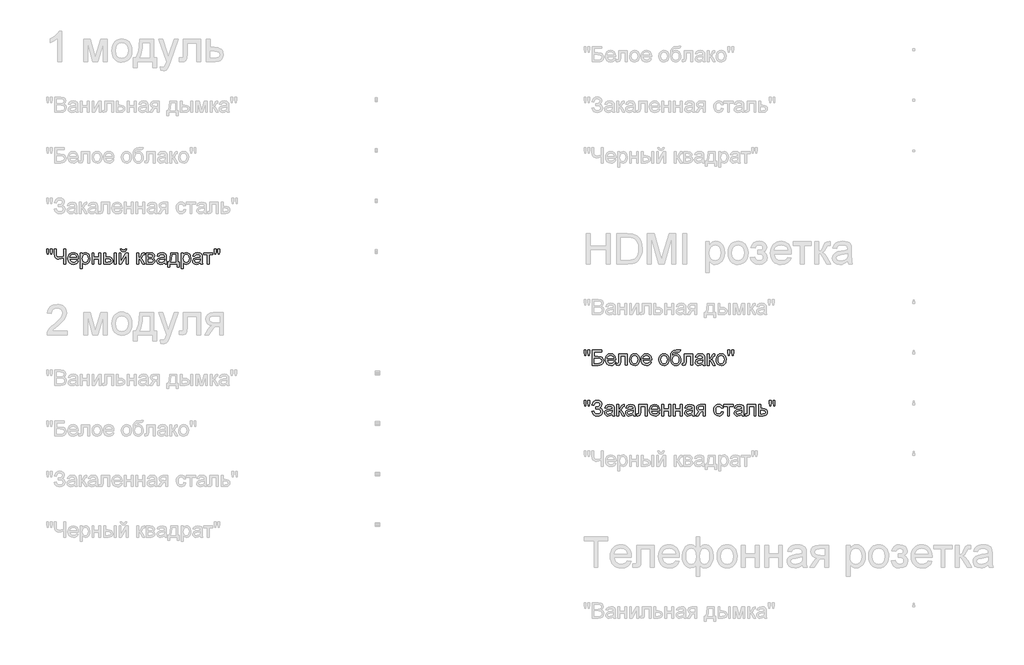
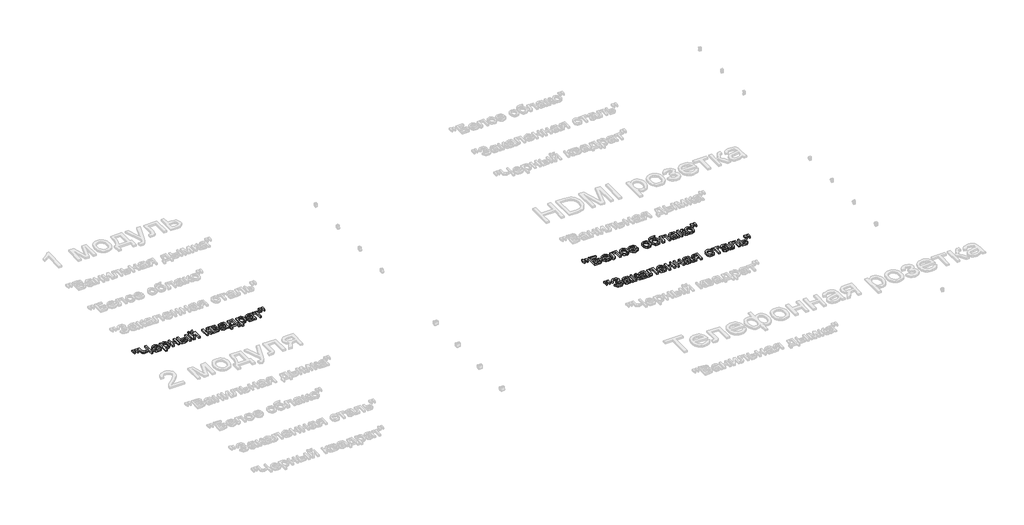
# One storey, part 54 of 168: 3 proxies.
"""IFC4 building model written with IfcOpenShell, lengths in millimetres."""

from ifc_helpers import new_model, si_unit, origin, origin_with_axes, place, context, project, spatial, polyline, outline, extrude, element, save

model = new_model("IFC4")

# Units and contexts
model_context = context("Model", 3, world=origin())
ifc_project = project(units=[si_unit("LENGTHUNIT", "METRE", prefix="MILLI")], contexts=[model_context])

# Site, building, storey
site = spatial("IfcSite", under=ifc_project)
building = spatial("IfcBuilding", under=site)
storey = spatial("IfcBuildingStorey", under=building, Name="Этаж 01", Elevation=0.0)

# Proxies
placement = place(None, origin())
element("IfcBuildingElementProxy", 1, Name="150", ObjectType="150", at=placement, inside=storey, context=model_context, shape_type="SweptSolid", body=[
    extrude(outline(polyline([(49080.1485789, -43470.3300622), (49075.550054, -43441.2305964), (49075.550054, -43416.1778325), (49094.3856121, -43416.1778325), (49094.3856121, -43441.2305964), (49090.2653338, -43470.3300622), (49080.1485789, -43470.3300622)])), origin_with_axes(), (0.0, 0.0, 1.0), 20.0),
    extrude(outline(polyline([(49117.7093306, -43470.3300622), (49113.2211703, -43441.2305964), (49113.2211703, -43416.1778325), (49132.0567284, -43416.1778325), (49132.0567284, -43441.2305964), (49127.6421445, -43470.3300622), (49117.7093306, -43470.3300622)])), origin_with_axes(), (0.0, 0.0, 1.0), 20.0),
    extrude(outline(polyline([(49263.9056355, -43566.8622977), (49245.0700773, -43566.8622977), (49245.0700773, -43506.5296505), (49220.0908899, -43514.6966308), (49198.4226404, -43517.4189576), (49183.7395502, -43515.556555), (49170.886673, -43509.9693472), (49160.926268, -43501.5172583), (49154.9205944, -43491.0602126), (49150.8922866, -43461.0594359), (49150.8922866, -43416.1778325), (49169.7278447, -43416.1778325), (49169.7278447, -43458.5210502), (49171.990319, -43478.8879171), (49178.7777418, -43490.8394834), (49188.7381468, -43496.6474204), (49200.5195677, -43498.5833994), (49222.2521966, -43496.2473488), (49245.0700773, -43489.2391968), (49245.0700773, -43416.1778325), (49263.9056355, -43416.1778325), (49263.9056355, -43566.8622977)])), origin_with_axes(), (0.0, 0.0, 1.0), 20.0),
    extrude(outline(polyline([(49371.9893657, -43533.900071), (49390.4570418, -43536.2545157), (49383.8029763, -43550.1696522), (49373.1849822, -43560.5715156), (49358.8421829, -43567.0554358), (49341.0137017, -43569.2167425), (49318.9131908, -43565.4873388), (49301.9078456, -43554.2991276), (49291.0645238, -43536.3786759), (49287.4500832, -43512.4525506), (49291.101312, -43487.7216835), (49302.0549984, -43469.2264162), (49318.8304174, -43457.6933157), (49339.9468439, -43453.8489488), (49360.4056814, -43457.6841186), (49376.7534375, -43469.189628), (49387.4725992, -43487.6481071), (49391.045653, -43512.342186), (49390.9352884, -43517.4189576), (49306.2856413, -43517.4189576), (49309.5459955, -43531.518035), (49317.1197661, -43541.8831103), (49328.0504599, -43548.2566658), (49341.3815837, -43550.3811843), (49359.8492598, -43546.444847), (49371.9893657, -43533.900071)]), holes=[polyline([(49306.2856413, -43498.5833994), (49372.2100949, -43498.5833994), (49369.6625121, -43488.6321915), (49364.668514, -43481.5136749), (49353.6872364, -43474.8917989), (49339.8732675, -43472.684507), (49327.1767401, -43474.445742), (49316.6783077, -43479.7294472), (49309.3804486, -43487.9654053), (49306.2856413, -43498.5833994)])]), origin_with_axes(), (0.0, 0.0, 1.0), 20.0),
    extrude(outline(polyline([(49409.8812112, -43609.2423036), (49409.8812112, -43456.2033936), (49428.7167693, -43456.2033936), (49428.7167693, -43474.6710697), (49441.739792, -43459.054479), (49459.3245513, -43453.8489488), (49472.0624654, -43455.6699647), (49483.2000928, -43461.1330123), (49492.268384, -43469.9069979), (49498.7982894, -43481.6608277), (49504.0590019, -43510.6867171), (49502.5736784, -43526.7953499), (49498.1177077, -43541.2025286), (49490.8336442, -43553.1770875), (49480.8640422, -43561.9878613), (49469.2527667, -43567.4095222), (49457.043683, -43569.2167425), (49440.6545401, -43564.3790943), (49428.7167693, -43552.1470179), (49428.7167693, -43609.2423036), (49409.8812112, -43609.2423036)]), holes=[polyline([(49428.7167693, -43512.4157624), (49430.7539159, -43529.301546), (49436.8653555, -43541.1105581), (49445.8830629, -43548.0635278), (49456.6390128, -43550.3811843), (49467.5697066, -43547.9807543), (49476.8173402, -43540.7794643), (49483.1219179, -43528.5381909), (49485.2234438, -43511.0178109), (49483.1725017, -43494.2239978), (49477.0196753, -43482.2494388), (49468.0157635, -43475.0757399), (49457.411565, -43472.684507), (49446.7659797, -43475.2274913), (49437.4171785, -43482.8564441), (49430.8918716, -43495.3322423), (49428.7167693, -43512.4157624)])]), origin_with_axes(), (0.0, 0.0, 1.0), 20.0),
    extrude(outline(polyline([(49525.2490049, -43456.2033936), (49544.084563, -43456.2033936), (49544.084563, -43498.5833994), (49593.5279032, -43498.5833994), (49593.5279032, -43456.2033936), (49612.3634613, -43456.2033936), (49612.3634613, -43566.8622977), (49593.5279032, -43566.8622977), (49593.5279032, -43517.4189576), (49544.084563, -43517.4189576), (49544.084563, -43566.8622977), (49525.2490049, -43566.8622977), (49525.2490049, -43456.2033936)])), origin_with_axes(), (0.0, 0.0, 1.0), 20.0),
    extrude(outline(polyline([(49744.2123684, -43456.2033936), (49763.0479266, -43456.2033936), (49763.0479266, -43566.8622977), (49744.2123684, -43566.8622977), (49744.2123684, -43456.2033936)])), origin_with_axes(), (0.0, 0.0, 1.0), 20.0),
    extrude(outline(polyline([(49640.6167986, -43456.2033936), (49659.4523567, -43456.2033936), (49659.4523567, -43496.2289547), (49682.739287, -43496.2289547), (49702.8670307, -43498.587998), (49717.780047, -43505.6651278), (49727.0092866, -43516.8901272), (49730.0856998, -43531.692779), (49727.5059273, -43545.1710556), (49719.7666098, -43556.5432078), (49706.3619096, -43564.2825252), (49686.785989, -43566.8622977), (49640.6167986, -43566.8622977), (49640.6167986, -43456.2033936)]), holes=[polyline([(49659.4523567, -43548.0267396), (49678.8029497, -43548.0267396), (49703.7821371, -43544.0720081), (49709.3831405, -43539.0090322), (49711.2501416, -43531.7295672), (49705.7135176, -43520.1412843), (49696.8337659, -43516.3337057), (49681.267759, -43515.0645128), (49659.4523567, -43515.0645128), (49659.4523567, -43548.0267396)])]), origin_with_axes(), (0.0, 0.0, 1.0), 20.0),
    extrude(outline(polyline([(49791.3012638, -43456.2033936), (49810.1368219, -43456.2033936), (49810.1368219, -43540.5955233), (49856.4163769, -43456.2033936), (49880.770165, -43456.2033936), (49880.770165, -43566.8622977), (49861.9346069, -43566.8622977), (49861.9346069, -43482.9852028), (49815.9493575, -43566.8622977), (49791.3012638, -43566.8622977), (49791.3012638, -43456.2033936)])), origin_with_axes(), (0.0, 0.0, 1.0), 20.0),
    extrude(outline(polyline([(49852.5168278, -43416.1778325), (49866.6434964, -43416.1778325), (49863.6038714, -43428.2397634), (49857.5016288, -43437.1287121), (49848.6126801, -43442.6055553), (49837.2129368, -43444.4311697), (49824.8429047, -43442.6193509), (49815.2503817, -43437.1838944), (49808.6928851, -43428.3087413), (49805.4279324, -43416.1778325), (49819.554601, -43416.1778325), (49824.8521017, -43426.7912281), (49835.5206796, -43430.3045011), (49847.219327, -43426.9015927), (49852.5168278, -43416.1778325)])), origin_with_axes(), (0.0, 0.0, 1.0), 20.0),
    extrude(outline(polyline([(49967.8846215, -43456.2033936), (49986.7201796, -43456.2033936), (49986.7201796, -43503.292289), (49999.3385321, -43499.9077746), (50009.6760161, -43480.1892997), (50018.2660607, -43463.1747574), (50025.8444298, -43457.6381334), (50039.6216105, -43456.2033936), (50043.2268541, -43456.2033936), (50043.2268541, -43475.1493163), (50038.1500825, -43475.0389517), (50028.9530327, -43477.0255145), (50022.4783096, -43489.4231377), (50014.8815464, -43502.8324365), (50004.2313626, -43509.3991301), (50016.113951, -43516.7291788), (50027.7758103, -43532.1710256), (50047.9357436, -43566.8622977), (50026.5250115, -43566.8622977), (50006.7697484, -43532.9067896), (49996.8369345, -43518.5409977), (49986.7201796, -43515.0645128), (49986.7201796, -43566.8622977), (49967.8846215, -43566.8622977), (49967.8846215, -43456.2033936)])), origin_with_axes(), (0.0, 0.0, 1.0), 20.0),
    extrude(outline(polyline([(50059.7079675, -43456.2033936), (50101.2050565, -43456.2033936), (50123.9585579, -43458.7233853), (50136.7608514, -43467.9572233), (50142.1135344, -43484.0520606), (50138.8761728, -43497.1302655), (50129.1273, -43506.4560741), (50141.7824406, -43516.6647995), (50146.8224239, -43534.4151058), (50143.6310476, -43548.7717006), (50136.0434815, -43558.8792584), (50124.0321343, -43564.8665379), (50107.569415, -43566.8622977), (50059.7079675, -43566.8622977), (50059.7079675, -43456.2033936)]), holes=[polyline([(50078.5435256, -43498.5833994), (50097.1583546, -43498.5833994), (50112.5174279, -43497.6269062), (50119.9854324, -43493.8009335), (50123.2779762, -43486.884752), (50121.8340394, -43481.2653545), (50117.5022289, -43477.6509139), (50097.7469658, -43475.0389517), (50078.5435256, -43475.0389517), (50078.5435256, -43498.5833994)]), polyline([(50078.5435256, -43548.0267396), (50101.6465149, -43548.0267396), (50122.137542, -43544.6238311), (50126.377382, -43539.9839195), (50127.9868658, -43532.8700014), (50124.7678983, -43523.8017102), (50116.3801888, -43518.5226036), (50099.8071049, -43517.4189576), (50078.5435256, -43517.4189576), (50078.5435256, -43548.0267396)])]), origin_with_axes(), (0.0, 0.0, 1.0), 20.0),
    extrude(outline(polyline([(50241.0002147, -43552.7356291), (50222.7348736, -43565.5011344), (50202.5565462, -43569.2167425), (50186.8157953, -43566.9818594), (50175.2045198, -43560.27721), (50168.0446165, -43550.0960758), (50165.6579821, -43537.4317381), (50169.2632256, -43522.5325173), (50178.736187, -43511.7167867), (50191.9247565, -43505.5363691), (50208.2219289, -43502.7036778), (50240.8898501, -43496.2289547), (50241.0002147, -43492.0350999), (50239.7034307, -43483.6289963), (50235.8130786, -43478.1291605), (50227.1126694, -43474.0456704), (50214.9909576, -43472.684507), (50195.9346703, -43476.3081446), (50186.847985, -43489.1656204), (50168.0124268, -43486.8111756), (50176.161013, -43468.4170758), (50192.56855, -43457.6381334), (50217.4189788, -43453.8489488), (50240.2460566, -43457.196675), (50253.1403205, -43465.6027786), (50258.9160679, -43478.3866779), (50259.8357728, -43494.8677913), (50259.8357728, -43518.3018744), (50260.792266, -43551.0249778), (50264.5446624, -43566.8622977), (50245.7091042, -43566.8622977), (50241.0002147, -43552.7356291)]), holes=[polyline([(50241.0002147, -43515.0645128), (50210.6131619, -43520.8402601), (50194.40796, -43523.8936807), (50187.0687142, -43528.8600876), (50184.4935402, -43536.1073629), (50190.1037407, -43546.2976942), (50206.5664599, -43550.3811843), (50225.6227473, -43545.8746299), (50237.9100059, -43534.9669288), (50240.8898501, -43520.3988017), (50241.0002147, -43515.0645128)])]), origin_with_axes(), (0.0, 0.0, 1.0), 20.0),
    extrude(outline(polyline([(50302.2157787, -43456.2033936), (50372.8491218, -43456.2033936), (50372.8491218, -43548.0267396), (50386.9757904, -43548.0267396), (50386.9757904, -43597.4700797), (50368.1402322, -43597.4700797), (50368.1402322, -43566.8622977), (50290.4435548, -43566.8622977), (50290.4435548, -43597.4700797), (50271.6079967, -43597.4700797), (50271.6079967, -43548.0267396), (50283.3802205, -43548.0267396), (50291.9380754, -43532.5619002), (50297.9299534, -43512.1030628), (50302.2157787, -43456.2033936)]), holes=[polyline([(50318.6968921, -43475.0389517), (50314.2823081, -43517.9523865), (50304.5702235, -43548.0267396), (50354.0135636, -43548.0267396), (50354.0135636, -43475.0389517), (50318.6968921, -43475.0389517)])]), origin_with_axes(), (0.0, 0.0, 1.0), 20.0),
    extrude(outline(polyline([(50408.1657933, -43609.2423036), (50408.1657933, -43456.2033936), (50427.0013514, -43456.2033936), (50427.0013514, -43474.6710697), (50440.0243741, -43459.054479), (50457.6091334, -43453.8489488), (50470.3470475, -43455.6699647), (50481.4846749, -43461.1330123), (50490.5529661, -43469.9069979), (50497.0828715, -43481.6608277), (50502.3435841, -43510.6867171), (50500.8582605, -43526.7953499), (50496.4022898, -43541.2025286), (50489.1182263, -43553.1770875), (50479.1486243, -43561.9878613), (50467.5373488, -43567.4095222), (50455.3282651, -43569.2167425), (50438.9391222, -43564.3790943), (50427.0013514, -43552.1470179), (50427.0013514, -43609.2423036), (50408.1657933, -43609.2423036)]), holes=[polyline([(50427.0013514, -43512.4157624), (50429.038498, -43529.301546), (50435.1499376, -43541.1105581), (50444.167645, -43548.0635278), (50454.9235949, -43550.3811843), (50465.8542887, -43547.9807543), (50475.1019223, -43540.7794643), (50481.4065, -43528.5381909), (50483.5080259, -43511.0178109), (50481.4570838, -43494.2239978), (50475.3042574, -43482.2494388), (50466.3003456, -43475.0757399), (50455.6961471, -43472.684507), (50445.0505618, -43475.2274913), (50435.7017606, -43482.8564441), (50429.1764537, -43495.3322423), (50427.0013514, -43512.4157624)])]), origin_with_axes(), (0.0, 0.0, 1.0), 20.0),
    extrude(outline(polyline([(50594.1669301, -43552.7356291), (50575.901589, -43565.5011344), (50555.7232616, -43569.2167425), (50539.9825107, -43566.9818594), (50528.3712352, -43560.27721), (50521.2113319, -43550.0960758), (50518.8246974, -43537.4317381), (50522.429941, -43522.5325173), (50531.9029024, -43511.7167867), (50545.0914719, -43505.5363691), (50561.3886443, -43502.7036778), (50594.0565655, -43496.2289547), (50594.1669301, -43492.0350999), (50592.870146, -43483.6289963), (50588.9797939, -43478.1291605), (50580.2793847, -43474.0456704), (50568.157673, -43472.684507), (50549.1013856, -43476.3081446), (50540.0147004, -43489.1656204), (50521.1791422, -43486.8111756), (50529.3277284, -43468.4170758), (50545.7352654, -43457.6381334), (50570.5856942, -43453.8489488), (50593.412772, -43457.196675), (50606.3070359, -43465.6027786), (50612.0827832, -43478.3866779), (50613.0024882, -43494.8677913), (50613.0024882, -43518.3018744), (50613.9589814, -43551.0249778), (50617.7113777, -43566.8622977), (50598.8758196, -43566.8622977), (50594.1669301, -43552.7356291)]), holes=[polyline([(50594.1669301, -43515.0645128), (50563.7798773, -43520.8402601), (50547.5746754, -43523.8936807), (50540.2354296, -43528.8600876), (50537.6602556, -43536.1073629), (50543.270456, -43546.2976942), (50559.7331753, -43550.3811843), (50578.7894627, -43545.8746299), (50591.0767213, -43534.9669288), (50594.0565655, -43520.3988017), (50594.1669301, -43515.0645128)])]), origin_with_axes(), (0.0, 0.0, 1.0), 20.0),
    extrude(outline(polyline([(50629.4836016, -43456.2033936), (50718.9525028, -43456.2033936), (50718.9525028, -43475.0389517), (50683.6358313, -43475.0389517), (50683.6358313, -43566.8622977), (50664.8002731, -43566.8622977), (50664.8002731, -43475.0389517), (50629.4836016, -43475.0389517), (50629.4836016, -43456.2033936)])), origin_with_axes(), (0.0, 0.0, 1.0), 20.0),
    extrude(outline(polyline([(50735.3232516, -43470.3300622), (50730.7247267, -43441.2305964), (50730.7247267, -43416.1778325), (50749.5602848, -43416.1778325), (50749.5602848, -43441.2305964), (50745.4400065, -43470.3300622), (50735.3232516, -43470.3300622)])), origin_with_axes(), (0.0, 0.0, 1.0), 20.0),
    extrude(outline(polyline([(50772.8840033, -43470.3300622), (50768.395843, -43441.2305964), (50768.395843, -43416.1778325), (50787.2314011, -43416.1778325), (50787.2314011, -43441.2305964), (50782.8168172, -43470.3300622), (50772.8840033, -43470.3300622)])), origin_with_axes(), (0.0, 0.0, 1.0), 20.0),
])
element("IfcBuildingElementProxy", 2, Name="150", ObjectType="150", at=placement, inside=storey, context=model_context, shape_type="SweptSolid", body=[
    extrude(outline(polyline([(54389.7772739, -44470.3300622), (54385.178749, -44441.2305964), (54385.178749, -44416.1778325), (54404.0143071, -44416.1778325), (54404.0143071, -44441.2305964), (54399.8940288, -44470.3300622), (54389.7772739, -44470.3300622)])), origin_with_axes(), (0.0, 0.0, 1.0), 20.0),
    extrude(outline(polyline([(54427.3380256, -44470.3300622), (54422.8498653, -44441.2305964), (54422.8498653, -44416.1778325), (54441.6854234, -44416.1778325), (54441.6854234, -44441.2305964), (54437.2708395, -44470.3300622), (54427.3380256, -44470.3300622)])), origin_with_axes(), (0.0, 0.0, 1.0), 20.0),
    extrude(outline(polyline([(54467.5843159, -44416.1778325), (54561.7621067, -44416.1778325), (54561.7621067, -44435.0133907), (54486.4198741, -44435.0133907), (54486.4198741, -44479.7478413), (54521.6997574, -44479.7478413), (54552.785786, -44483.573814), (54563.1876494, -44489.101241), (54571.2902503, -44498.0315764), (54576.5049776, -44509.5278888), (54578.2432201, -44522.7532465), (54573.2952072, -44544.2191609), (54558.5247451, -44560.5347274), (54545.2534021, -44565.2804052), (54525.0842718, -44566.8622977), (54467.5843159, -44566.8622977), (54467.5843159, -44416.1778325)]), holes=[polyline([(54486.4198741, -44548.0267396), (54526.7765289, -44548.0267396), (54541.0411533, -44546.4724382), (54551.2406816, -44541.8095339), (54557.3659168, -44534.0380267), (54559.4076619, -44523.1579167), (54554.7355606, -44508.4058487), (54541.730932, -44500.533174), (54513.3488361, -44498.5833994), (54486.4198741, -44498.5833994), (54486.4198741, -44548.0267396)])]), origin_with_axes(), (0.0, 0.0, 1.0), 20.0),
    extrude(outline(polyline([(54679.2636159, -44533.900071), (54697.7312921, -44536.2545157), (54691.0772265, -44550.1696522), (54680.4592324, -44560.5715156), (54666.1164331, -44567.0554358), (54648.2879519, -44569.2167425), (54626.1874411, -44565.4873388), (54609.1820959, -44554.2991276), (54598.338774, -44536.3786759), (54594.7243334, -44512.4525506), (54598.3755622, -44487.7216835), (54609.3292486, -44469.2264162), (54626.1046676, -44457.6933157), (54647.2210942, -44453.8489488), (54667.6799316, -44457.6841186), (54684.0276878, -44469.189628), (54694.7468494, -44487.6481071), (54698.3199033, -44512.342186), (54698.2095387, -44517.4189576), (54613.5598916, -44517.4189576), (54616.8202458, -44531.518035), (54624.3940164, -44541.8831103), (54635.3247101, -44548.2566658), (54648.6558339, -44550.3811843), (54667.1235101, -44546.444847), (54679.2636159, -44533.900071)]), holes=[polyline([(54613.5598916, -44498.5833994), (54679.4843451, -44498.5833994), (54676.9367623, -44488.6321915), (54671.9427642, -44481.5136749), (54660.9614867, -44474.8917989), (54647.1475178, -44472.684507), (54634.4509904, -44474.445742), (54623.952558, -44479.7294472), (54616.6546989, -44487.9654053), (54613.5598916, -44498.5833994)])]), origin_with_axes(), (0.0, 0.0, 1.0), 20.0),
    extrude(outline(polyline([(54726.5732405, -44456.2033936), (54811.3332522, -44456.2033936), (54811.3332522, -44566.7519331), (54792.497694, -44566.7519331), (54792.497694, -44475.0389517), (54745.4087987, -44475.0389517), (54745.4087987, -44527.830018), (54744.1396058, -44552.1838061), (54737.168242, -44562.4661079), (54720.6871286, -44566.8622977), (54705.3832376, -44565.9058045), (54705.3832376, -44548.0267396), (54713.8077353, -44548.0267396), (54722.3242035, -44546.8679113), (54725.7271119, -44543.1890913), (54726.5732405, -44526.7631603), (54726.5732405, -44456.2033936)])), origin_with_axes(), (0.0, 0.0, 1.0), 20.0),
    extrude(outline(polyline([(54834.8776999, -44511.5328457), (54838.951993, -44484.852204), (54851.1748723, -44466.0994193), (54866.2764282, -44456.9115664), (54884.3578282, -44453.8489488), (54904.1452811, -44457.5783525), (54919.9504113, -44468.7665637), (54930.310888, -44486.5306656), (54933.7643802, -44509.9877413), (54932.2376699, -44529.0164375), (54927.6575391, -44543.501791), (54920.1573449, -44554.3497114), (54909.8704446, -44562.4661079), (54897.6521638, -44567.5290839), (54884.3578282, -44569.2167425), (54864.3312521, -44565.5011344), (54848.544516, -44554.3543099), (54838.2944039, -44536.2177275), (54834.8776999, -44511.5328457)]), holes=[polyline([(54853.713258, -44511.4960575), (54855.8929589, -44528.5427894), (54862.4320613, -44540.6874938), (54872.2729047, -44547.9577617), (54884.3578282, -44550.3811843), (54896.3875695, -44547.9439661), (54906.2100188, -44540.6323115), (54912.7491212, -44528.3266587), (54914.928822, -44510.9074463), (54912.7353256, -44494.357355), (54906.1548365, -44482.3781975), (54896.3185916, -44475.1079296), (54884.3578282, -44472.684507), (54872.2729047, -44475.0987326), (54862.4320613, -44482.3414093), (54855.8929589, -44494.4585226), (54853.713258, -44511.4960575)])]), origin_with_axes(), (0.0, 0.0, 1.0), 20.0),
    extrude(outline(polyline([(55032.4303313, -44533.900071), (55050.8980075, -44536.2545157), (55044.2439419, -44550.1696522), (55033.6259478, -44560.5715156), (55019.2831485, -44567.0554358), (55001.4546673, -44569.2167425), (54979.3541564, -44565.4873388), (54962.3488112, -44554.2991276), (54951.5054894, -44536.3786759), (54947.8910488, -44512.4525506), (54951.5422776, -44487.7216835), (54962.495964, -44469.2264162), (54979.271383, -44457.6933157), (55000.3878095, -44453.8489488), (55020.846647, -44457.6841186), (55037.1944031, -44469.189628), (55047.9135648, -44487.6481071), (55051.4866187, -44512.342186), (55051.3762541, -44517.4189576), (54966.726607, -44517.4189576), (54969.9869611, -44531.518035), (54977.5607317, -44541.8831103), (54988.4914255, -44548.2566658), (55001.8225493, -44550.3811843), (55020.2902255, -44546.444847), (55032.4303313, -44533.900071)]), holes=[polyline([(54966.726607, -44498.5833994), (55032.6510605, -44498.5833994), (55030.1034777, -44488.6321915), (55025.1094796, -44481.5136749), (55014.128202, -44474.8917989), (55000.3142331, -44472.684507), (54987.6177058, -44474.445742), (54977.1192733, -44479.7294472), (54969.8214142, -44487.9654053), (54966.726607, -44498.5833994)])]), origin_with_axes(), (0.0, 0.0, 1.0), 20.0),
    extrude(outline(polyline([(55124.4744065, -44511.5328457), (55128.5486996, -44484.852204), (55140.7715789, -44466.0994193), (55155.8731348, -44456.9115664), (55173.9545348, -44453.8489488), (55193.7419877, -44457.5783525), (55209.5471179, -44468.7665637), (55219.9075946, -44486.5306656), (55223.3610868, -44509.9877413), (55221.8343765, -44529.0164375), (55217.2542457, -44543.501791), (55209.7540515, -44554.3497114), (55199.4671512, -44562.4661079), (55187.2488704, -44567.5290839), (55173.9545348, -44569.2167425), (55153.9279587, -44565.5011344), (55138.1412226, -44554.3543099), (55127.8911105, -44536.2177275), (55124.4744065, -44511.5328457)]), holes=[polyline([(55143.3099646, -44511.4960575), (55145.4896655, -44528.5427894), (55152.0287679, -44540.6874938), (55161.8696113, -44547.9577617), (55173.9545348, -44550.3811843), (55185.9842761, -44547.9439661), (55195.8067254, -44540.6323115), (55202.3458278, -44528.3266587), (55204.5255286, -44510.9074463), (55202.3320323, -44494.357355), (55195.7515431, -44482.3781975), (55185.9152982, -44475.1079296), (55173.9545348, -44472.684507), (55161.8696113, -44475.0987326), (55152.0287679, -44482.3414093), (55145.4896655, -44494.4585226), (55143.3099646, -44511.4960575)])]), origin_with_axes(), (0.0, 0.0, 1.0), 20.0),
    extrude(outline(polyline([(55322.2477671, -44413.8233877), (55338.7288805, -44413.8233877), (55333.8728382, -44428.5202734), (55324.2711181, -44433.8361683), (55301.204917, -44435.0133907), (55270.1372825, -44439.3543982), (55263.0095688, -44445.0013868), (55258.2179058, -44453.2603376), (55254.189598, -44477.8716431), (55270.5051645, -44459.8454253), (55280.4241828, -44455.3480679), (55291.5296205, -44453.8489488), (55311.1285338, -44457.661126), (55327.030233, -44469.0976575), (55337.5700522, -44487.0365033), (55341.0833253, -44510.3556233), (55339.3404843, -44528.3358558), (55334.1119614, -44542.766027), (55317.5756658, -44562.3189551), (55306.2816885, -44567.4922957), (55291.5296205, -44569.2167425), (55274.5288738, -44566.995655), (55261.7863612, -44560.3323923), (55252.4099688, -44550.2064404), (55245.5075829, -44537.597285), (55241.2585459, -44518.6099755), (55239.8422002, -44489.3495614), (55243.4152541, -44453.2097538), (55254.1344157, -44431.1690238), (55272.2663995, -44419.9256303), (55298.07792, -44416.1778325), (55319.0471937, -44415.7547682), (55322.2477671, -44413.8233877)]), holes=[polyline([(55322.2477671, -44509.7670121), (55320.206022, -44494.9459662), (55314.0807868, -44483.0771733), (55304.2399434, -44475.2826736), (55291.0513739, -44472.684507), (55277.3017843, -44475.4298264), (55267.102256, -44483.6657845), (55260.7838828, -44496.4910706), (55258.6777583, -44513.0043736), (55261.004612, -44529.011839), (55267.9851728, -44540.7610702), (55278.3778392, -44547.9761558), (55290.9410093, -44550.3811843), (55303.5685588, -44547.5990768), (55313.565752, -44539.252754), (55320.0772633, -44526.3171033), (55322.2477671, -44509.7670121)])]), origin_with_axes(), (0.0, 0.0, 1.0), 20.0),
    extrude(outline(polyline([(55374.045552, -44456.2033936), (55458.8055637, -44456.2033936), (55458.8055637, -44566.7519331), (55439.9700056, -44566.7519331), (55439.9700056, -44475.0389517), (55392.8811102, -44475.0389517), (55392.8811102, -44527.830018), (55391.6119173, -44552.1838061), (55384.6405535, -44562.4661079), (55368.1594401, -44566.8622977), (55352.8555491, -44565.9058045), (55352.8555491, -44548.0267396), (55361.2800468, -44548.0267396), (55369.796515, -44546.8679113), (55373.1994234, -44543.1890913), (55374.045552, -44526.7631603), (55374.045552, -44456.2033936)])), origin_with_axes(), (0.0, 0.0, 1.0), 20.0),
    extrude(outline(polyline([(55557.692244, -44552.7356291), (55539.426903, -44565.5011344), (55519.2485755, -44569.2167425), (55503.5078247, -44566.9818594), (55491.8965492, -44560.27721), (55484.7366458, -44550.0960758), (55482.3500114, -44537.4317381), (55485.955255, -44522.5325173), (55495.4282163, -44511.7167867), (55508.6167859, -44505.5363691), (55524.9139582, -44502.7036778), (55557.5818794, -44496.2289547), (55557.692244, -44492.0350999), (55556.39546, -44483.6289963), (55552.5051079, -44478.1291605), (55543.8046987, -44474.0456704), (55531.682987, -44472.684507), (55512.6266996, -44476.3081446), (55503.5400143, -44489.1656204), (55484.7044562, -44486.8111756), (55492.8530424, -44468.4170758), (55509.2605794, -44457.6381334), (55534.1110081, -44453.8489488), (55556.9380859, -44457.196675), (55569.8323499, -44465.6027786), (55575.6080972, -44478.3866779), (55576.5278022, -44494.8677913), (55576.5278022, -44518.3018744), (55577.4842954, -44551.0249778), (55581.2366917, -44566.8622977), (55562.4011336, -44566.8622977), (55557.692244, -44552.7356291)]), holes=[polyline([(55557.692244, -44515.0645128), (55527.3051912, -44520.8402601), (55511.0999893, -44523.8936807), (55503.7607435, -44528.8600876), (55501.1855696, -44536.1073629), (55506.79577, -44546.2976942), (55523.2584893, -44550.3811843), (55542.3147766, -44545.8746299), (55554.6020353, -44534.9669288), (55557.5818794, -44520.3988017), (55557.692244, -44515.0645128)])]), origin_with_axes(), (0.0, 0.0, 1.0), 20.0),
    extrude(outline(polyline([(55602.4266946, -44456.2033936), (55621.2622528, -44456.2033936), (55621.2622528, -44503.292289), (55633.8806052, -44499.9077746), (55644.2180893, -44480.1892997), (55652.8081339, -44463.1747574), (55660.386503, -44457.6381334), (55674.1636837, -44456.2033936), (55677.7689272, -44456.2033936), (55677.7689272, -44475.1493163), (55672.6921557, -44475.0389517), (55663.4951058, -44477.0255145), (55657.0203827, -44489.4231377), (55649.4236195, -44502.8324365), (55638.7734358, -44509.3991301), (55650.6560242, -44516.7291788), (55662.3178834, -44532.1710256), (55682.4778168, -44566.8622977), (55661.0670847, -44566.8622977), (55641.3118215, -44532.9067896), (55631.3790077, -44518.5409977), (55621.2622528, -44515.0645128), (55621.2622528, -44566.8622977), (55602.4266946, -44566.8622977), (55602.4266946, -44456.2033936)])), origin_with_axes(), (0.0, 0.0, 1.0), 20.0),
    extrude(outline(polyline([(55689.5411511, -44511.5328457), (55693.6154442, -44484.852204), (55705.8383235, -44466.0994193), (55720.9398794, -44456.9115664), (55739.0212794, -44453.8489488), (55758.8087323, -44457.5783525), (55774.6138625, -44468.7665637), (55784.9743392, -44486.5306656), (55788.4278314, -44509.9877413), (55786.9011211, -44529.0164375), (55782.3209903, -44543.501791), (55774.8207961, -44554.3497114), (55764.5338958, -44562.4661079), (55752.315615, -44567.5290839), (55739.0212794, -44569.2167425), (55718.9947033, -44565.5011344), (55703.2079672, -44554.3543099), (55692.9578551, -44536.2177275), (55689.5411511, -44511.5328457)]), holes=[polyline([(55708.3767092, -44511.4960575), (55710.5564101, -44528.5427894), (55717.0955125, -44540.6874938), (55726.9363559, -44547.9577617), (55739.0212794, -44550.3811843), (55751.0510207, -44547.9439661), (55760.87347, -44540.6323115), (55767.4125724, -44528.3266587), (55769.5922732, -44510.9074463), (55767.3987768, -44494.357355), (55760.8182877, -44482.3781975), (55750.9820428, -44475.1079296), (55739.0212794, -44472.684507), (55726.9363559, -44475.0987326), (55717.0955125, -44482.3414093), (55710.5564101, -44494.4585226), (55708.3767092, -44511.4960575)])]), origin_with_axes(), (0.0, 0.0, 1.0), 20.0),
    extrude(outline(polyline([(55809.5074697, -44470.3300622), (55804.9089448, -44441.2305964), (55804.9089448, -44416.1778325), (55823.7445029, -44416.1778325), (55823.7445029, -44441.2305964), (55819.6242246, -44470.3300622), (55809.5074697, -44470.3300622)])), origin_with_axes(), (0.0, 0.0, 1.0), 20.0),
    extrude(outline(polyline([(55847.0682214, -44470.3300622), (55842.5800611, -44441.2305964), (55842.5800611, -44416.1778325), (55861.4156192, -44416.1778325), (55861.4156192, -44441.2305964), (55857.0010353, -44470.3300622), (55847.0682214, -44470.3300622)])), origin_with_axes(), (0.0, 0.0, 1.0), 20.0),
])
element("IfcBuildingElementProxy", 3, Name="150", ObjectType="150", at=placement, inside=storey, context=model_context, shape_type="SweptSolid", body=[
    extrude(outline(polyline([(54389.7772739, -44970.3300622), (54385.178749, -44941.2305964), (54385.178749, -44916.1778325), (54404.0143071, -44916.1778325), (54404.0143071, -44941.2305964), (54399.8940288, -44970.3300622), (54389.7772739, -44970.3300622)])), origin_with_axes(), (0.0, 0.0, 1.0), 20.0),
    extrude(outline(polyline([(54427.3380256, -44970.3300622), (54422.8498653, -44941.2305964), (54422.8498653, -44916.1778325), (54441.6854234, -44916.1778325), (54441.6854234, -44941.2305964), (54437.2708395, -44970.3300622), (54427.3380256, -44970.3300622)])), origin_with_axes(), (0.0, 0.0, 1.0), 20.0),
    extrude(outline(polyline([(54460.5209816, -45024.4822919), (54479.3565398, -45019.7734024), (54490.9264285, -45040.172459), (54501.8571223, -45047.829003), (54515.8504337, -45050.3811843), (54530.0276861, -45048.4635995), (54540.8480152, -45042.7108448), (54547.7044159, -45034.2449603), (54549.9898828, -45024.1879863), (54547.4928838, -45013.6527657), (54540.0018867, -45005.517975), (54528.2066702, -45000.3170433), (54512.7970131, -44998.5833994), (54502.9009874, -44998.5833994), (54502.9009874, -44979.7478413), (54524.2197491, -44978.221131), (54537.2611658, -44970.4220327), (54542.9265485, -44956.1666054), (54541.0411533, -44947.2960508), (54535.3849676, -44939.6670979), (54526.5098145, -44934.4109839), (54514.9675169, -44932.6589459), (54495.7456826, -44938.0484171), (54484.746011, -44952.3406326), (54481.7109845, -44965.6211727), (54462.8754264, -44960.9122831), (54468.7270494, -44940.3108914), (54479.3289486, -44925.5956116), (54494.6811241, -44916.7664437), (54514.7835759, -44913.8233877), (54534.1755556, -44916.8814068), (54549.0885719, -44926.0554641), (54558.593723, -44939.3222085), (54561.7621067, -44954.6582892), (54556.8324879, -44973.3007093), (54542.0436317, -44987.2158458), (54552.5190715, -44992.0396984), (54561.1367073, -45000.1836861), (54566.9032576, -45010.948833), (54568.825441, -45023.6361633), (54565.137424, -45041.4738415), (54554.073373, -45056.1385376), (54536.9208749, -45065.9471913), (54514.9675169, -45069.2167425), (54495.8652443, -45066.4208393), (54480.4233975, -45058.0331298), (54468.6419766, -45044.053614), (54460.5209816, -45024.4822919)])), origin_with_axes(), (0.0, 0.0, 1.0), 20.0),
    extrude(outline(polyline([(54663.0032317, -45052.7356291), (54644.7378907, -45065.5011344), (54624.5595633, -45069.2167425), (54608.8188124, -45066.9818594), (54597.2075369, -45060.27721), (54590.0476336, -45050.0960758), (54587.6609991, -45037.4317381), (54591.2662427, -45022.5325173), (54600.7392041, -45011.7167867), (54613.9277736, -45005.5363691), (54630.224946, -45002.7036778), (54662.8928671, -44996.2289547), (54663.0032317, -44992.0350999), (54661.7064477, -44983.6289963), (54657.8160956, -44978.1291605), (54649.1156864, -44974.0456704), (54636.9939747, -44972.684507), (54617.9376873, -44976.3081446), (54608.8510021, -44989.1656204), (54590.0154439, -44986.8111756), (54598.1640301, -44968.4170758), (54614.5715671, -44957.6381334), (54639.4219959, -44953.8489488), (54662.2490737, -44957.196675), (54675.1433376, -44965.6027786), (54680.9190849, -44978.3866779), (54681.8387899, -44994.8677913), (54681.8387899, -45018.3018744), (54682.7952831, -45051.0249778), (54686.5476794, -45066.8622977), (54667.7121213, -45066.8622977), (54663.0032317, -45052.7356291)]), holes=[polyline([(54663.0032317, -45015.0645128), (54632.6161789, -45020.8402601), (54616.4109771, -45023.8936807), (54609.0717313, -45028.8600876), (54606.4965573, -45036.1073629), (54612.1067577, -45046.2976942), (54628.569477, -45050.3811843), (54647.6257643, -45045.8746299), (54659.913023, -45034.9669288), (54662.8928671, -45020.3988017), (54663.0032317, -45015.0645128)])]), origin_with_axes(), (0.0, 0.0, 1.0), 20.0),
    extrude(outline(polyline([(54707.7376824, -44956.2033936), (54726.5732405, -44956.2033936), (54726.5732405, -45003.292289), (54739.1915929, -44999.9077746), (54749.529077, -44980.1892997), (54758.1191216, -44963.1747574), (54765.6974907, -44957.6381334), (54779.4746714, -44956.2033936), (54783.079915, -44956.2033936), (54783.079915, -44975.1493163), (54778.0031434, -44975.0389517), (54768.8060936, -44977.0255145), (54762.3313704, -44989.4231377), (54754.7346072, -45002.8324365), (54744.0844235, -45009.3991301), (54755.9670119, -45016.7291788), (54767.6288712, -45032.1710256), (54787.7888045, -45066.8622977), (54766.3780724, -45066.8622977), (54746.6228092, -45032.9067896), (54736.6899954, -45018.5409977), (54726.5732405, -45015.0645128), (54726.5732405, -45066.8622977), (54707.7376824, -45066.8622977), (54707.7376824, -44956.2033936)])), origin_with_axes(), (0.0, 0.0, 1.0), 20.0),
    extrude(outline(polyline([(54870.1943714, -45052.7356291), (54851.9290304, -45065.5011344), (54831.7507029, -45069.2167425), (54816.0099521, -45066.9818594), (54804.3986766, -45060.27721), (54797.2387733, -45050.0960758), (54794.8521388, -45037.4317381), (54798.4573824, -45022.5325173), (54807.9303437, -45011.7167867), (54821.1189133, -45005.5363691), (54837.4160857, -45002.7036778), (54870.0840068, -44996.2289547), (54870.1943714, -44992.0350999), (54868.8975874, -44983.6289963), (54865.0072353, -44978.1291605), (54856.3068261, -44974.0456704), (54844.1851144, -44972.684507), (54825.128827, -44976.3081446), (54816.0421417, -44989.1656204), (54797.2065836, -44986.8111756), (54805.3551698, -44968.4170758), (54821.7627068, -44957.6381334), (54846.6131355, -44953.8489488), (54869.4402133, -44957.196675), (54882.3344773, -44965.6027786), (54888.1102246, -44978.3866779), (54889.0299296, -44994.8677913), (54889.0299296, -45018.3018744), (54889.9864228, -45051.0249778), (54893.7388191, -45066.8622977), (54874.903261, -45066.8622977), (54870.1943714, -45052.7356291)]), holes=[polyline([(54870.1943714, -45015.0645128), (54839.8073186, -45020.8402601), (54823.6021167, -45023.8936807), (54816.2628709, -45028.8600876), (54813.687697, -45036.1073629), (54819.2978974, -45046.2976942), (54835.7606167, -45050.3811843), (54854.816904, -45045.8746299), (54867.1041627, -45034.9669288), (54870.0840068, -45020.3988017), (54870.1943714, -45015.0645128)])]), origin_with_axes(), (0.0, 0.0, 1.0), 20.0),
    extrude(outline(polyline([(54924.3466011, -44956.2033936), (55009.1066128, -44956.2033936), (55009.1066128, -45066.7519331), (54990.2710547, -45066.7519331), (54990.2710547, -44975.0389517), (54943.1821593, -44975.0389517), (54943.1821593, -45027.830018), (54941.9129664, -45052.1838061), (54934.9416026, -45062.4661079), (54918.4604892, -45066.8622977), (54903.1565982, -45065.9058045), (54903.1565982, -45048.0267396), (54911.5810959, -45048.0267396), (54920.0975641, -45046.8679113), (54923.5004725, -45043.1890913), (54924.3466011, -45026.7631603), (54924.3466011, -44956.2033936)])), origin_with_axes(), (0.0, 0.0, 1.0), 20.0),
    extrude(outline(polyline([(55114.8358982, -45033.900071), (55133.3035744, -45036.2545157), (55126.6495088, -45050.1696522), (55116.0315147, -45060.5715156), (55101.6887154, -45067.0554358), (55083.8602342, -45069.2167425), (55061.7597234, -45065.4873388), (55044.7543781, -45054.2991276), (55033.9110563, -45036.3786759), (55030.2966157, -45012.4525506), (55033.9478445, -44987.7216835), (55044.9015309, -44969.2264162), (55061.6769499, -44957.6933157), (55082.7933764, -44953.8489488), (55103.2522139, -44957.6841186), (55119.5999701, -44969.189628), (55130.3191317, -44987.6481071), (55133.8921856, -45012.342186), (55133.781821, -45017.4189576), (55049.1321739, -45017.4189576), (55052.3925281, -45031.518035), (55059.9662986, -45041.8831103), (55070.8969924, -45048.2566658), (55084.2281162, -45050.3811843), (55102.6957924, -45046.444847), (55114.8358982, -45033.900071)]), holes=[polyline([(55049.1321739, -44998.5833994), (55115.0566274, -44998.5833994), (55112.5090446, -44988.6321915), (55107.5150465, -44981.5136749), (55096.533769, -44974.8917989), (55082.7198, -44972.684507), (55070.0232727, -44974.445742), (55059.5248402, -44979.7294472), (55052.2269812, -44987.9654053), (55049.1321739, -44998.5833994)])]), origin_with_axes(), (0.0, 0.0, 1.0), 20.0),
    extrude(outline(polyline([(55152.7277437, -44956.2033936), (55171.5633019, -44956.2033936), (55171.5633019, -44998.5833994), (55221.006642, -44998.5833994), (55221.006642, -44956.2033936), (55239.8422002, -44956.2033936), (55239.8422002, -45066.8622977), (55221.006642, -45066.8622977), (55221.006642, -45017.4189576), (55171.5633019, -45017.4189576), (55171.5633019, -45066.8622977), (55152.7277437, -45066.8622977), (55152.7277437, -44956.2033936)])), origin_with_axes(), (0.0, 0.0, 1.0), 20.0),
    extrude(outline(polyline([(55268.0955374, -44956.2033936), (55286.9310956, -44956.2033936), (55286.9310956, -44998.5833994), (55336.3744357, -44998.5833994), (55336.3744357, -44956.2033936), (55355.2099939, -44956.2033936), (55355.2099939, -45066.8622977), (55336.3744357, -45066.8622977), (55336.3744357, -45017.4189576), (55286.9310956, -45017.4189576), (55286.9310956, -45066.8622977), (55268.0955374, -45066.8622977), (55268.0955374, -44956.2033936)])), origin_with_axes(), (0.0, 0.0, 1.0), 20.0),
    extrude(outline(polyline([(55454.0966742, -45052.7356291), (55435.8313331, -45065.5011344), (55415.6530057, -45069.2167425), (55399.9122548, -45066.9818594), (55388.3009793, -45060.27721), (55381.141076, -45050.0960758), (55378.7544416, -45037.4317381), (55382.3596851, -45022.5325173), (55391.8326465, -45011.7167867), (55405.021216, -45005.5363691), (55421.3183884, -45002.7036778), (55453.9863096, -44996.2289547), (55454.0966742, -44992.0350999), (55452.7998901, -44983.6289963), (55448.909538, -44978.1291605), (55440.2091289, -44974.0456704), (55428.0874171, -44972.684507), (55409.0311298, -44976.3081446), (55399.9444445, -44989.1656204), (55381.1088863, -44986.8111756), (55389.2574725, -44968.4170758), (55405.6650095, -44957.6381334), (55430.5154383, -44953.8489488), (55453.3425161, -44957.196675), (55466.23678, -44965.6027786), (55472.0125273, -44978.3866779), (55472.9322323, -44994.8677913), (55472.9322323, -45018.3018744), (55473.8887255, -45051.0249778), (55477.6411219, -45066.8622977), (55458.8055637, -45066.8622977), (55454.0966742, -45052.7356291)]), holes=[polyline([(55454.0966742, -45015.0645128), (55423.7096214, -45020.8402601), (55407.5044195, -45023.8936807), (55400.1651737, -45028.8600876), (55397.5899997, -45036.1073629), (55403.2002001, -45046.2976942), (55419.6629194, -45050.3811843), (55438.7192068, -45045.8746299), (55451.0064654, -45034.9669288), (55453.9863096, -45020.3988017), (55454.0966742, -45015.0645128)])]), origin_with_axes(), (0.0, 0.0, 1.0), 20.0),
    extrude(outline(polyline([(55583.5911365, -44956.2033936), (55583.5911365, -45066.8622977), (55564.7555783, -45066.8622977), (55564.7555783, -45024.4822919), (55554.4916707, -45024.4822919), (55540.5121548, -45026.8735249), (55527.3787676, -45042.949968), (55512.3691822, -45066.8622977), (55490.5905681, -45066.8622977), (55509.4997026, -45036.6223977), (55517.8506239, -45025.7698789), (55525.5393576, -45020.9506247), (55512.6634878, -45017.0050903), (55503.6135907, -45009.5094947), (55498.2609077, -44999.5398926), (55496.47668, -44988.172339), (55498.9138982, -44975.278075), (55506.2255529, -44965.0693497), (55518.1541266, -44958.4198826), (55534.4421019, -44956.2033936), (55583.5911365, -44956.2033936)]), holes=[polyline([(55564.7555783, -44975.0389517), (55539.9235436, -44975.0389517), (55527.0982576, -44976.1288021), (55519.8187926, -44979.3983534), (55515.3122382, -44989.6070787), (55516.9723057, -44996.7853762), (55521.9525082, -45001.7655787), (55545.4785618, -45005.6467337), (55564.7555783, -45005.6467337), (55564.7555783, -44975.0389517)])]), origin_with_axes(), (0.0, 0.0, 1.0), 20.0),
    extrude(outline(polyline([(55741.338936, -45026.8367367), (55760.1744942, -45029.1911814), (55754.9229787, -45045.9436078), (55745.0545442, -45058.6033469), (55731.4980926, -45066.5633936), (55715.1825262, -45069.2167425), (55695.146753, -45065.5149299), (55679.4795785, -45054.4094922), (55669.3674222, -45036.387873), (55665.9967034, -45011.9375159), (55667.4360417, -44995.1758924), (55671.7540566, -44980.6491522), (55679.019726, -44968.918315), (55689.3020278, -44960.5444011), (55701.603082, -44955.5228119), (55714.9250088, -44953.8489488), (55730.8405036, -44956.1482113), (55743.5646221, -44963.0459987), (55752.6926941, -44974.174429), (55757.8200494, -44989.1656204), (55738.9844912, -44991.5200651), (55730.2472939, -44977.4117906), (55715.0721616, -44972.684507), (55702.899866, -44975.0113606), (55693.2383651, -44981.9919214), (55686.9337874, -44994.0032686), (55684.8322615, -45011.4224811), (55686.8878022, -45029.0762183), (55693.0544241, -45041.1289522), (55702.5411811, -45048.0681263), (55714.5571268, -45050.3811843), (55724.3105982, -45048.9372475), (55732.307433, -45044.605437), (55738.1245671, -45037.2753883), (55741.338936, -45026.8367367)])), origin_with_axes(), (0.0, 0.0, 1.0), 20.0),
    extrude(outline(polyline([(55767.2378285, -44956.2033936), (55856.7067297, -44956.2033936), (55856.7067297, -44975.0389517), (55821.3900582, -44975.0389517), (55821.3900582, -45066.8622977), (55802.5545, -45066.8622977), (55802.5545, -44975.0389517), (55767.2378285, -44975.0389517), (55767.2378285, -44956.2033936)])), origin_with_axes(), (0.0, 0.0, 1.0), 20.0),
    extrude(outline(polyline([(55943.8211862, -45052.7356291), (55925.5558451, -45065.5011344), (55905.3775177, -45069.2167425), (55889.6367668, -45066.9818594), (55878.0254913, -45060.27721), (55870.865588, -45050.0960758), (55868.4789535, -45037.4317381), (55872.0841971, -45022.5325173), (55881.5571585, -45011.7167867), (55894.745728, -45005.5363691), (55911.0429004, -45002.7036778), (55943.7108216, -44996.2289547), (55943.8211862, -44992.0350999), (55942.5244021, -44983.6289963), (55938.63405, -44978.1291605), (55929.9336408, -44974.0456704), (55917.8119291, -44972.684507), (55898.7556417, -44976.3081446), (55889.6689565, -44989.1656204), (55870.8333983, -44986.8111756), (55878.9819845, -44968.4170758), (55895.3895215, -44957.6381334), (55920.2399503, -44953.8489488), (55943.0670281, -44957.196675), (55955.961292, -44965.6027786), (55961.7370393, -44978.3866779), (55962.6567443, -44994.8677913), (55962.6567443, -45018.3018744), (55963.6132375, -45051.0249778), (55967.3656338, -45066.8622977), (55948.5300757, -45066.8622977), (55943.8211862, -45052.7356291)]), holes=[polyline([(55943.8211862, -45015.0645128), (55913.4341334, -45020.8402601), (55897.2289315, -45023.8936807), (55889.8896857, -45028.8600876), (55887.3145117, -45036.1073629), (55892.9247121, -45046.2976942), (55909.3874314, -45050.3811843), (55928.4437188, -45045.8746299), (55940.7309774, -45034.9669288), (55943.7108216, -45020.3988017), (55943.8211862, -45015.0645128)])]), origin_with_axes(), (0.0, 0.0, 1.0), 20.0),
    extrude(outline(polyline([(55997.9734158, -44956.2033936), (56082.7334275, -44956.2033936), (56082.7334275, -45066.7519331), (56063.8978694, -45066.7519331), (56063.8978694, -44975.0389517), (56016.808974, -44975.0389517), (56016.808974, -45027.830018), (56015.5397811, -45052.1838061), (56008.5684173, -45062.4661079), (55992.0873039, -45066.8622977), (55976.7834129, -45065.9058045), (55976.7834129, -45048.0267396), (55985.2079106, -45048.0267396), (55993.7243788, -45046.8679113), (55997.1272873, -45043.1890913), (55997.9734158, -45026.7631603), (55997.9734158, -44956.2033936)])), origin_with_axes(), (0.0, 0.0, 1.0), 20.0),
    extrude(outline(polyline([(56110.9867648, -44956.2033936), (56129.8223229, -44956.2033936), (56129.8223229, -44996.2289547), (56151.5273606, -44996.2289547), (56170.3445247, -44998.587998), (56184.2688582, -45005.6651278), (56192.8772969, -45016.8901272), (56195.7467765, -45031.692779), (56193.3049597, -45045.1710556), (56185.9795095, -45056.5432078), (56173.2829821, -45064.2825252), (56154.727934, -45066.8622977), (56110.9867648, -45066.8622977), (56110.9867648, -44956.2033936)]), holes=[polyline([(56129.8223229, -45048.0267396), (56147.4070823, -45048.0267396), (56170.1237955, -45044.0720081), (56175.2143626, -45039.0090322), (56176.9112183, -45031.7295672), (56171.8896291, -45020.1412843), (56163.8192178, -45016.3337057), (56149.6511625, -45015.0645128), (56129.8223229, -45015.0645128), (56129.8223229, -45048.0267396)])]), origin_with_axes(), (0.0, 0.0, 1.0), 20.0),
    extrude(outline(polyline([(56219.1808595, -44970.3300622), (56214.5823346, -44941.2305964), (56214.5823346, -44916.1778325), (56233.4178928, -44916.1778325), (56233.4178928, -44941.2305964), (56229.2976144, -44970.3300622), (56219.1808595, -44970.3300622)])), origin_with_axes(), (0.0, 0.0, 1.0), 20.0),
    extrude(outline(polyline([(56256.7416113, -44970.3300622), (56252.2534509, -44941.2305964), (56252.2534509, -44916.1778325), (56271.0890091, -44916.1778325), (56271.0890091, -44941.2305964), (56266.6744251, -44970.3300622), (56256.7416113, -44970.3300622)])), origin_with_axes(), (0.0, 0.0, 1.0), 20.0),
])

save(model, "model.ifc")
